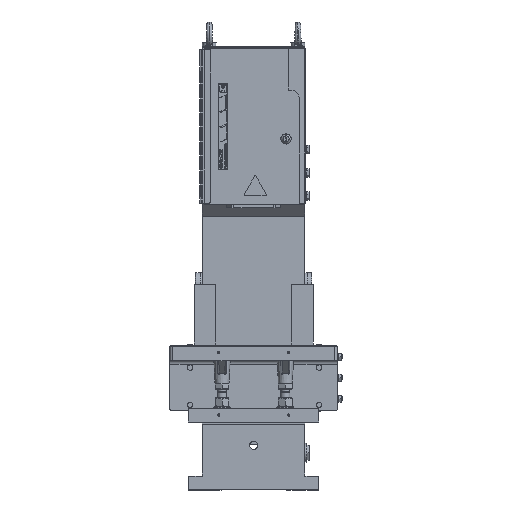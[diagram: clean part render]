
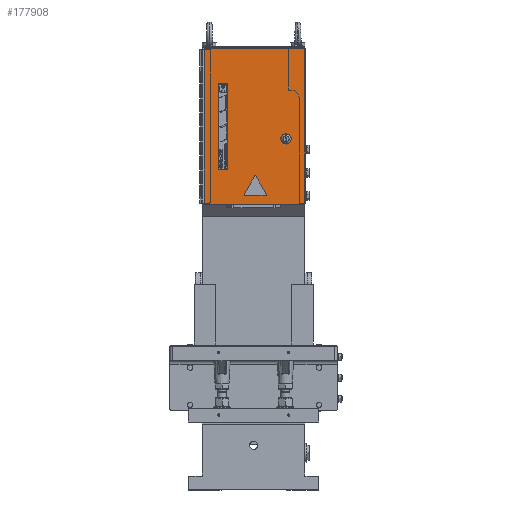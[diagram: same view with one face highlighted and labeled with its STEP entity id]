
A CAD part, front view. The second image highlights one B-rep face of the part: STEP entity #177908.
In plain terms, the highlighted planar face has unit normal (0, -1, 0).
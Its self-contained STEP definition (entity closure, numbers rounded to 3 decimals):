
#23936=LINE('',#217107,#36772);
#23940=LINE('',#217119,#36776);
#23945=LINE('',#217131,#36781);
#24323=LINE('',#219863,#37159);
#24326=LINE('',#219868,#37162);
#25304=LINE('',#225010,#38140);
#25305=LINE('',#225012,#38141);
#35109=LINE('',#312783,#47945);
#35122=LINE('',#312825,#47958);
#35123=LINE('',#312829,#47959);
#35124=LINE('',#312833,#47960);
#36772=VECTOR('',#188068,10.);
#36776=VECTOR('',#188080,10.);
#36781=VECTOR('',#188093,10.);
#37159=VECTOR('',#188695,10.);
#37162=VECTOR('',#188700,10.);
#38140=VECTOR('',#190300,10.);
#38141=VECTOR('',#190303,10.);
#47945=VECTOR('',#209885,10.);
#47958=VECTOR('',#209920,10.);
#47959=VECTOR('',#209923,10.);
#47960=VECTOR('',#209926,10.);
#49926=FACE_BOUND('',#67586,.T.);
#49927=FACE_BOUND('',#67587,.T.);
#49928=FACE_BOUND('',#67588,.T.);
#57988=FACE_OUTER_BOUND('',#67585,.T.);
#67585=EDGE_LOOP('',(#158013,#158014,#158015,#158016,#158017,#158018,#158019,
#158020));
#67586=EDGE_LOOP('',(#158021,#158022,#158023,#158024,#158025,#158026));
#67587=EDGE_LOOP('',(#158027,#158028,#158029,#158030));
#67588=EDGE_LOOP('',(#158031));
#69198=CIRCLE('',#179708,1.);
#69200=CIRCLE('',#179712,1.);
#69202=CIRCLE('',#179716,1.);
#69713=CIRCLE('',#185042,3.);
#69714=CIRCLE('',#185043,3.);
#69715=CIRCLE('',#185044,3.);
#69716=CIRCLE('',#185045,3.);
#69717=CIRCLE('',#185046,11.);
#71128=VERTEX_POINT('',#217100);
#71129=VERTEX_POINT('',#217102);
#71130=VERTEX_POINT('',#217106);
#71133=VERTEX_POINT('',#217114);
#71134=VERTEX_POINT('',#217118);
#71137=VERTEX_POINT('',#217126);
#71554=VERTEX_POINT('',#219860);
#71555=VERTEX_POINT('',#219862);
#71556=VERTEX_POINT('',#219866);
#72459=VERTEX_POINT('',#225008);
#85893=VERTEX_POINT('',#312780);
#85894=VERTEX_POINT('',#312782);
#85911=VERTEX_POINT('',#312822);
#85912=VERTEX_POINT('',#312824);
#85913=VERTEX_POINT('',#312826);
#85914=VERTEX_POINT('',#312828);
#85915=VERTEX_POINT('',#312830);
#85916=VERTEX_POINT('',#312832);
#85917=VERTEX_POINT('',#312835);
#88279=EDGE_CURVE('',#71129,#71128,#69198,.T.);
#88281=EDGE_CURVE('',#71130,#71129,#23936,.T.);
#88285=EDGE_CURVE('',#71133,#71130,#69200,.T.);
#88287=EDGE_CURVE('',#71134,#71133,#23940,.T.);
#88291=EDGE_CURVE('',#71137,#71134,#69202,.T.);
#88294=EDGE_CURVE('',#71128,#71137,#23945,.T.);
#88918=EDGE_CURVE('',#71555,#71554,#24323,.T.);
#88921=EDGE_CURVE('',#71554,#71556,#24326,.T.);
#90278=EDGE_CURVE('',#71556,#72459,#25304,.T.);
#90279=EDGE_CURVE('',#72459,#71555,#25305,.T.);
#110381=EDGE_CURVE('',#85893,#85894,#35109,.T.);
#110402=EDGE_CURVE('',#85911,#85893,#69713,.T.);
#110403=EDGE_CURVE('',#85912,#85911,#35122,.T.);
#110404=EDGE_CURVE('',#85913,#85912,#69714,.T.);
#110405=EDGE_CURVE('',#85914,#85913,#35123,.T.);
#110406=EDGE_CURVE('',#85915,#85914,#69715,.T.);
#110407=EDGE_CURVE('',#85916,#85915,#35124,.T.);
#110408=EDGE_CURVE('',#85894,#85916,#69716,.T.);
#110409=EDGE_CURVE('',#85917,#85917,#69717,.T.);
#158013=ORIENTED_EDGE('',*,*,#110402,.F.);
#158014=ORIENTED_EDGE('',*,*,#110403,.F.);
#158015=ORIENTED_EDGE('',*,*,#110404,.F.);
#158016=ORIENTED_EDGE('',*,*,#110405,.F.);
#158017=ORIENTED_EDGE('',*,*,#110406,.F.);
#158018=ORIENTED_EDGE('',*,*,#110407,.F.);
#158019=ORIENTED_EDGE('',*,*,#110408,.F.);
#158020=ORIENTED_EDGE('',*,*,#110381,.F.);
#158021=ORIENTED_EDGE('',*,*,#88279,.T.);
#158022=ORIENTED_EDGE('',*,*,#88294,.T.);
#158023=ORIENTED_EDGE('',*,*,#88291,.T.);
#158024=ORIENTED_EDGE('',*,*,#88287,.T.);
#158025=ORIENTED_EDGE('',*,*,#88285,.T.);
#158026=ORIENTED_EDGE('',*,*,#88281,.T.);
#158027=ORIENTED_EDGE('',*,*,#88918,.T.);
#158028=ORIENTED_EDGE('',*,*,#88921,.T.);
#158029=ORIENTED_EDGE('',*,*,#90278,.T.);
#158030=ORIENTED_EDGE('',*,*,#90279,.T.);
#158031=ORIENTED_EDGE('',*,*,#110409,.T.);
#169349=PLANE('',#185041);
#177908=ADVANCED_FACE('',(#57988,#49926,#49927,#49928),#169349,.T.);
#179708=AXIS2_PLACEMENT_3D('',#217103,#188063,#188064);
#179712=AXIS2_PLACEMENT_3D('',#217115,#188075,#188076);
#179716=AXIS2_PLACEMENT_3D('',#217127,#188087,#188088);
#185041=AXIS2_PLACEMENT_3D('',#312821,#209916,#209917);
#185042=AXIS2_PLACEMENT_3D('',#312823,#209918,#209919);
#185043=AXIS2_PLACEMENT_3D('',#312827,#209921,#209922);
#185044=AXIS2_PLACEMENT_3D('',#312831,#209924,#209925);
#185045=AXIS2_PLACEMENT_3D('',#312834,#209927,#209928);
#185046=AXIS2_PLACEMENT_3D('',#312836,#209929,#209930);
#188063=DIRECTION('center_axis',(0.,1.,0.));
#188064=DIRECTION('ref_axis',(-0.866,0.,
-0.5));
#188068=DIRECTION('',(-1.,0.,0.));
#188075=DIRECTION('center_axis',(0.,1.,0.));
#188076=DIRECTION('ref_axis',(0.866,0.,-0.5));
#188080=DIRECTION('',(0.5,0.,-0.866));
#188087=DIRECTION('center_axis',(0.,1.,0.));
#188088=DIRECTION('ref_axis',(0.,0.,
1.));
#188093=DIRECTION('',(0.5,0.,0.866));
#188695=DIRECTION('',(0.,0.,1.));
#188700=DIRECTION('',(1.,0.,0.));
#190300=DIRECTION('',(0.,0.,-1.));
#190303=DIRECTION('',(-1.,0.,0.));
#209885=DIRECTION('',(1.,0.,0.));
#209916=DIRECTION('center_axis',(0.,-1.,0.));
#209917=DIRECTION('ref_axis',(1.,0.,0.));
#209918=DIRECTION('center_axis',(0.,1.,0.));
#209919=DIRECTION('ref_axis',(-0.707,0.,0.707));
#209920=DIRECTION('',(0.,0.,1.));
#209921=DIRECTION('center_axis',(0.,1.,0.));
#209922=DIRECTION('ref_axis',(-0.707,0.,
-0.707));
#209923=DIRECTION('',(-1.,0.,0.));
#209924=DIRECTION('center_axis',(0.,1.,0.));
#209925=DIRECTION('ref_axis',(0.707,0.,-0.707));
#209926=DIRECTION('',(0.,0.,-1.));
#209927=DIRECTION('center_axis',(0.,1.,0.));
#209928=DIRECTION('ref_axis',(0.707,0.,0.707));
#209929=DIRECTION('center_axis',(0.,1.,0.));
#209930=DIRECTION('ref_axis',(-1.,0.,0.));
#217100=CARTESIAN_POINT('',(-20.634,-549.5,634.5));
#217102=CARTESIAN_POINT('',(-19.768,-549.5,633.));
#217103=CARTESIAN_POINT('Origin',(-19.768,-549.5,634.));
#217106=CARTESIAN_POINT('',(26.768,-549.5,633.));
#217107=CARTESIAN_POINT('',(-9.75,-549.5,633.));
#217114=CARTESIAN_POINT('',(27.634,-549.5,634.5));
#217115=CARTESIAN_POINT('Origin',(26.768,-549.5,634.));
#217118=CARTESIAN_POINT('',(4.366,-549.5,674.801));
#217119=CARTESIAN_POINT('',(-6.855,-549.5,694.237));
#217126=CARTESIAN_POINT('',(2.634,-549.5,674.801));
#217127=CARTESIAN_POINT('Origin',(3.5,-549.5,674.301));
#217131=CARTESIAN_POINT('',(25.98,-549.5,715.239));
#219860=CARTESIAN_POINT('',(-76.5,-549.5,873.));
#219862=CARTESIAN_POINT('',(-76.5,-549.5,688.));
#219863=CARTESIAN_POINT('',(-76.5,-549.5,734.5));
#219866=CARTESIAN_POINT('',(-55.5,-549.5,873.));
#219868=CARTESIAN_POINT('',(-37.25,-549.5,873.));
#225008=CARTESIAN_POINT('',(-55.5,-549.5,688.));
#225010=CARTESIAN_POINT('',(-55.5,-549.5,827.));
#225012=CARTESIAN_POINT('',(-26.75,-549.5,688.));
#312780=CARTESIAN_POINT('',(-103.5,-549.5,949.));
#312782=CARTESIAN_POINT('',(107.5,-549.5,949.));
#312783=CARTESIAN_POINT('',(110.5,-549.5,949.));
#312821=CARTESIAN_POINT('Origin',(2.,-549.5,781.));
#312822=CARTESIAN_POINT('',(-106.5,-549.5,946.));
#312823=CARTESIAN_POINT('Origin',(-103.5,-549.5,946.));
#312824=CARTESIAN_POINT('',(-106.5,-549.5,616.));
#312825=CARTESIAN_POINT('',(-106.5,-549.5,949.));
#312826=CARTESIAN_POINT('',(-103.5,-549.5,613.));
#312827=CARTESIAN_POINT('Origin',(-103.5,-549.5,616.));
#312828=CARTESIAN_POINT('',(107.5,-549.5,613.));
#312829=CARTESIAN_POINT('',(-106.5,-549.5,613.));
#312830=CARTESIAN_POINT('',(110.5,-549.5,616.));
#312831=CARTESIAN_POINT('Origin',(107.5,-549.5,616.));
#312832=CARTESIAN_POINT('',(110.5,-549.5,946.));
#312833=CARTESIAN_POINT('',(110.5,-549.5,613.));
#312834=CARTESIAN_POINT('Origin',(107.5,-549.5,946.));
#312835=CARTESIAN_POINT('',(80.5,-549.5,754.));
#312836=CARTESIAN_POINT('Origin',(69.5,-549.5,754.));
